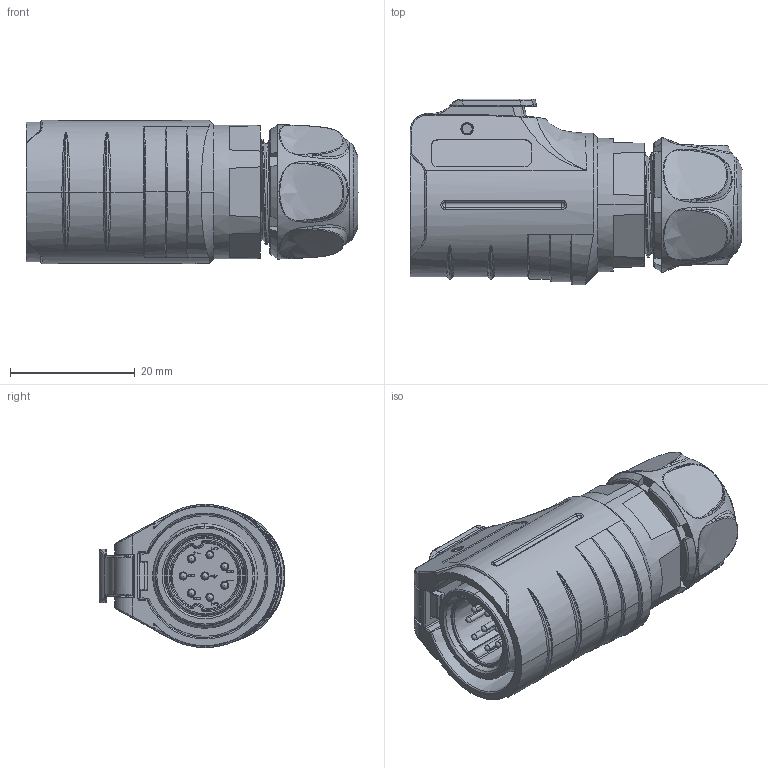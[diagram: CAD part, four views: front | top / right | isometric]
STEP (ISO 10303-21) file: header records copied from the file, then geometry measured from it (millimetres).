
FILE_DESCRIPTION (( 'STEP AP203' ), '1' );
FILE_NAME ('LP-16八芯插头组件（无LOGO塑胶款）.STEP', '2018-04-14T07:26:49', ( 'John' ), ( '' ), 'SwSTEP 2.0', 'SolidWorks 2015', '' );
FILE_SCHEMA (( 'CONFIG_CONTROL_DESIGN' ));
Length unit declared in the file: millimetre
Products named in the file (14): 502-0070-00  LP-16内牙防水圈; 402-0013-00  LP-16潠眢縐銅; 8郋呿蝶郋D璃; 8郋呿蝶郋C璃; 201-0103-00  LP-16ﾋﾜｽｺﾎｲｿﾇ｣ｨﾎﾞLOGO｣ｩ; 1.0鼠喳揤渀(16倰); 209-0017-00  LP-16帣窒; 199-0021-22  LP-16偌諶; 8郋呿蝶CD郪璃; 502-0072-00  LP-16夹线圈0.75平方; 404-0020-00  LP-16脣奿; LP-16八芯插头组件（无LOGO塑胶款）; 210-0025-00  LP-16蹟簽(LP20党蜊); 205-0015-00  LP-16呿蝶囀挴
Assembly tree (21 placements, depth 3):
  LP-16八芯插头组件（无LOGO塑胶款）
    201-0103-00  LP-16ﾋﾜｽｺﾎｲｿﾇ｣ｨﾎﾞLOGO｣ｩ
    199-0021-22  LP-16偌諶
    404-0020-00  LP-16脣奿
    209-0017-00  LP-16帣窒
    502-0072-00  LP-16夹线圈0.75平方
    210-0025-00  LP-16蹟簽(LP20党蜊)
    205-0015-00  LP-16呿蝶囀挴
    502-0070-00  LP-16内牙防水圈  x2
    402-0013-00  LP-16潠眢縐銅
    8郋呿蝶CD郪璃
      8郋呿蝶郋D璃
      8郋呿蝶郋C璃
      1.0鼠喳揤渀(16倰)  x8
Bounding box: 53.3 x 29.84 x 22.99 mm (x, y, z)
Volume: 12508.3 mm3; surface area: 19879.1 mm2
Topology: 19 solids, 25 shells, 2124 faces, 5524 edges, 3502 vertices
Faces by surface type: plane 778, cylinder 526, bspline 469, torus 163, cone 158, sphere 30
Entity records: 111377 total; most frequent: CARTESIAN_POINT 68714, ORIENTED_EDGE 9541, DIRECTION 7185, EDGE_CURVE 4771, VERTEX_POINT 3058, AXIS2_PLACEMENT_3D 2609, EDGE_LOOP 1974, VECTOR 1967
